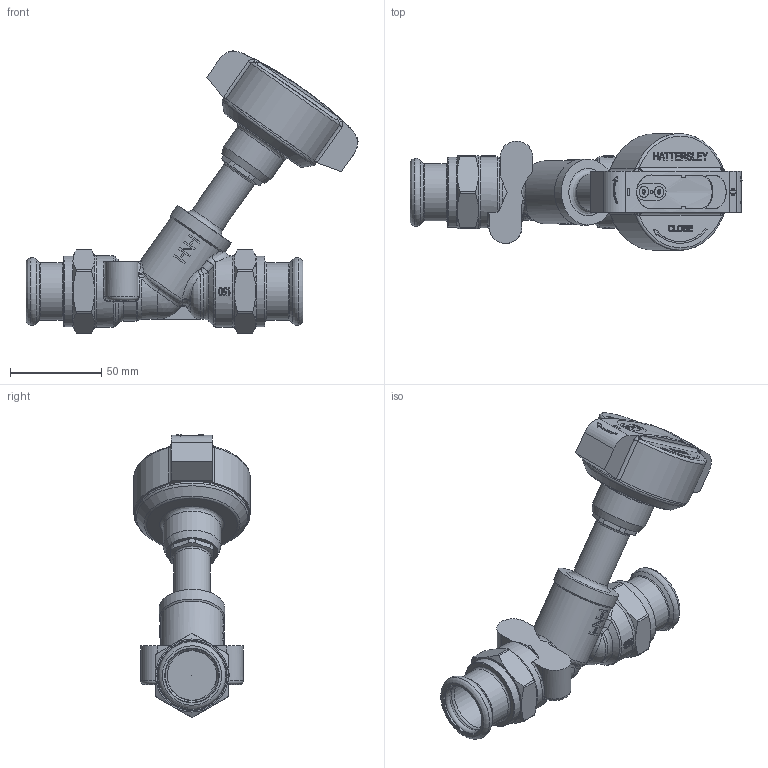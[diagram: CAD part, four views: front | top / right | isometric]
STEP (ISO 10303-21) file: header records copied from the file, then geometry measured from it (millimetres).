
FILE_DESCRIPTION((''),'2;1');
FILE_NAME('P:\Fastrack\53972_CRANE 3D\Push Fit\Fig_1432\Fig-1432-PF_28mm\Fig-1432-PF_28mm.stp','2011-08-24T15:57:48',('btaylor'),(''),'Autodesk Inventor 2008','Autodesk Inventor 2008','');
FILE_SCHEMA(('AUTOMOTIVE_DESIGN { 1 0 10303 214 1 1 1 1 }'));
Length unit declared in the file: millimetre
Products named in the file (1): Fig-1432-PF_28mm
Bounding box: 181.77 x 63.85 x 154.55 mm (x, y, z)
Volume: 286419.8 mm3; surface area: 52750.7 mm2
Topology: 1 solids, 3 shells, 682 faces, 1760 edges, 1134 vertices
Faces by surface type: plane 296, bspline 222, cylinder 95, cone 46, torus 21, sphere 2
Full cylindrical faces by diameter (mm): 20 x1, 28.25 x2, 29.25 x2, 31.4 x2, 31.5 x1, 36 x1, 38.5 x2, 39 x2, 61.958 x1
Entity records: 60300 total; most frequent: CARTESIAN_POINT 45477, ORIENTED_EDGE 3362, DIRECTION 2342, EDGE_CURVE 1681, VERTEX_POINT 1113, EDGE_LOOP 797, AXIS2_PLACEMENT_3D 785, VECTOR 772
